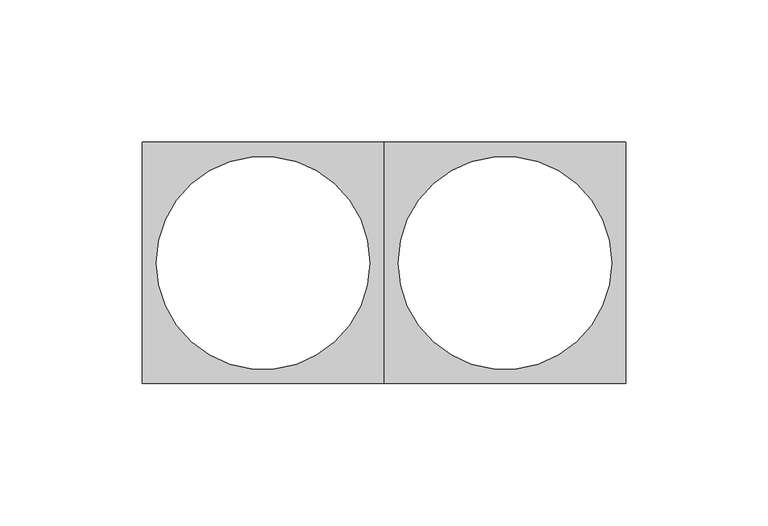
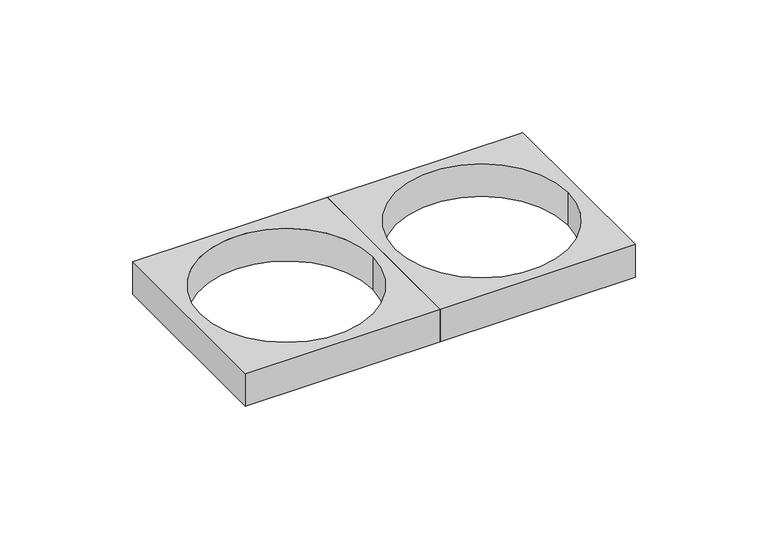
"""IFC4 building model written with IfcOpenShell, lengths in millimetres: duct fitting geometry, Mosaic Суппорт на 2 модуля : 85мм."""

from ifc_helpers import new_model, si_unit, point, frame_2d, origin, origin_with_axes, origin_2d, place, context, project, spatial, polyline, circle_curve, trimmed, segment, composite_curve, outline, extrude, source, transform, mapped, element, save


def duct_fitting_41b2c8f4(model_context):
    return source(origin(), model_context, "Body", "SweptSolid", [
        extrude(outline(polyline([(127.5, 42.5), (127.5, -42.5), (42.5, -42.5), (42.5, 42.5), (127.5, 42.5)]), holes=[composite_curve([segment(trimmed(circle_curve(frame_2d((85.0, 0.0)), 37.5), [point((47.5, 0.0))], [point((122.5, 0.0))], True, "CARTESIAN"), True, "CONTINUOUS"), segment(trimmed(circle_curve(frame_2d((85.0, 0.0)), 37.5), [point((122.5, 0.0))], [point((47.5, 0.0))], True, "CARTESIAN"), True, "CONTINUOUS")], self_intersect=False)]), origin_with_axes(), (0.0, 0.0, 1.0), 15.0),
        extrude(outline(polyline([(42.5, 42.5), (42.5, -42.5), (-42.5, -42.5), (-42.5, 42.5), (42.5, 42.5)]), holes=[composite_curve([segment(trimmed(circle_curve(origin_2d(), 37.5), [point((-37.5, 0.0))], [point((37.5, 0.0))], True, "CARTESIAN"), True, "CONTINUOUS"), segment(trimmed(circle_curve(origin_2d(), 37.5), [point((37.5, 0.0))], [point((-37.5, 0.0))], True, "CARTESIAN"), True, "CONTINUOUS")], self_intersect=False)]), origin_with_axes(), (0.0, 0.0, 1.0), 15.0),
    ])


if __name__ == "__main__":
    model = new_model("IFC4")
    model_context = context("Model", 3, world=origin())
    ifc_project = project(units=[si_unit("LENGTHUNIT", "METRE", prefix="MILLI")], contexts=[model_context])
    site = spatial("IfcSite", under=ifc_project)
    building = spatial("IfcBuilding", under=site)
    placement = place(None, origin())
    duct_fitting_shape = duct_fitting_41b2c8f4(model_context)
    element("IfcDuctFitting", 1, ObjectType="Mosaic Суппорт на 2 модуля : 85мм", at=placement, inside=building, context=model_context, shape_type="MappedRepresentation", body=[
        mapped(duct_fitting_shape, transform((0.0, 0.0, 0.0), x_axis=(1.0, 0.0, 0.0), y_axis=(0.0, 1.0, 0.0), z_axis=(0.0, 0.0, 1.0))),
    ])
    save(model, "model.ifc")
